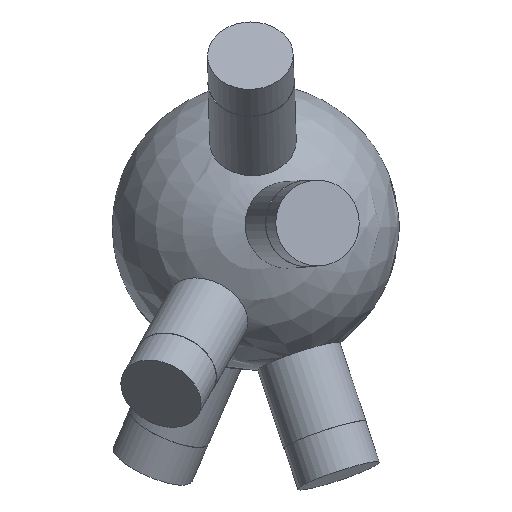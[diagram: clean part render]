
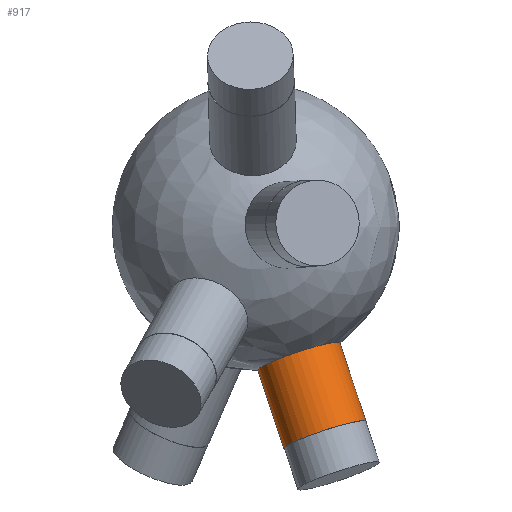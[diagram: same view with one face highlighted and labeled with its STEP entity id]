
A CAD part, top view. The second image highlights one B-rep face of the part: STEP entity #917.
In plain terms, the highlighted cylindrical face has radius 6 mm (diameter 12 mm), a full revolution.
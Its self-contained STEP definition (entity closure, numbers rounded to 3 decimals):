
#33 = SPHERICAL_SURFACE('',#34,20.);
#34 = AXIS2_PLACEMENT_3D('',#35,#36,#37);
#35 = CARTESIAN_POINT('',(0.,0.,0.));
#36 = DIRECTION('',(0.,0.,1.));
#37 = DIRECTION('',(1.,0.,-0.));
#474 = EDGE_CURVE('',#475,#475,#477,.T.);
#475 = VERTEX_POINT('',#476);
#476 = CARTESIAN_POINT('',(0.314,-19.898,1.993
    ));
#477 = SURFACE_CURVE('',#478,(#483,#545),.PCURVE_S1.);
#478 = CIRCLE('',#479,6.);
#479 = AXIS2_PLACEMENT_3D('',#480,#481,#482);
#480 = CARTESIAN_POINT('',(6.005,-17.999,1.993
    ));
#481 = DIRECTION('',(0.315,-0.943,0.104));
#482 = DIRECTION('',(0.949,0.317,0.));
#483 = PCURVE('',#33,#484);
#484 = DEFINITIONAL_REPRESENTATION('',(#485),#544);
#485 = B_SPLINE_CURVE_WITH_KNOTS('',8,(#486,#487,#488,#489,#490,#491,
    #492,#493,#494,#495,#496,#497,#498,#499,#500,#501,#502,#503,#504,
    #505,#506,#507,#508,#509,#510,#511,#512,#513,#514,#515,#516,#517,
    #518,#519,#520,#521,#522,#523,#524,#525,#526,#527,#528,#529,#530,
    #531,#532,#533,#534,#535,#536,#537,#538,#539,#540,#541,#542,#543),
  .UNSPECIFIED.,.F.,.F.,(9,7,7,7,7,7,7,7,9),(3.142,
    3.927,4.614,5.216,6.268,
    7.057,7.649,8.537,9.425),
  .UNSPECIFIED.);
#486 = CARTESIAN_POINT('',(4.728,0.1));
#487 = CARTESIAN_POINT('',(4.729,0.07));
#488 = CARTESIAN_POINT('',(4.733,0.041));
#489 = CARTESIAN_POINT('',(4.74,0.012));
#490 = CARTESIAN_POINT('',(4.751,-0.016));
#491 = CARTESIAN_POINT('',(4.764,-0.042));
#492 = CARTESIAN_POINT('',(4.78,-0.068));
#493 = CARTESIAN_POINT('',(4.798,-0.091));
#494 = CARTESIAN_POINT('',(4.838,-0.13));
#495 = CARTESIAN_POINT('',(4.858,-0.146));
#496 = CARTESIAN_POINT('',(4.88,-0.161));
#497 = CARTESIAN_POINT('',(4.903,-0.173));
#498 = CARTESIAN_POINT('',(4.927,-0.183));
#499 = CARTESIAN_POINT('',(4.952,-0.191));
#500 = CARTESIAN_POINT('',(4.978,-0.196));
#501 = CARTESIAN_POINT('',(5.027,-0.201));
#502 = CARTESIAN_POINT('',(5.05,-0.201));
#503 = CARTESIAN_POINT('',(5.074,-0.199));
#504 = CARTESIAN_POINT('',(5.096,-0.196));
#505 = CARTESIAN_POINT('',(5.119,-0.19));
#506 = CARTESIAN_POINT('',(5.141,-0.183));
#507 = CARTESIAN_POINT('',(5.162,-0.173));
#508 = CARTESIAN_POINT('',(5.216,-0.143));
#509 = CARTESIAN_POINT('',(5.248,-0.119));
#510 = CARTESIAN_POINT('',(5.276,-0.09));
#511 = CARTESIAN_POINT('',(5.3,-0.057));
#512 = CARTESIAN_POINT('',(5.318,-0.021));
#513 = CARTESIAN_POINT('',(5.331,0.017));
#514 = CARTESIAN_POINT('',(5.339,0.056));
#515 = CARTESIAN_POINT('',(5.342,0.125));
#516 = CARTESIAN_POINT('',(5.34,0.155));
#517 = CARTESIAN_POINT('',(5.335,0.184));
#518 = CARTESIAN_POINT('',(5.327,0.213));
#519 = CARTESIAN_POINT('',(5.315,0.241));
#520 = CARTESIAN_POINT('',(5.3,0.267));
#521 = CARTESIAN_POINT('',(5.283,0.291));
#522 = CARTESIAN_POINT('',(5.246,0.33));
#523 = CARTESIAN_POINT('',(5.229,0.345));
#524 = CARTESIAN_POINT('',(5.211,0.359));
#525 = CARTESIAN_POINT('',(5.191,0.371));
#526 = CARTESIAN_POINT('',(5.17,0.382));
#527 = CARTESIAN_POINT('',(5.147,0.391));
#528 = CARTESIAN_POINT('',(5.124,0.398));
#529 = CARTESIAN_POINT('',(5.066,0.41));
#530 = CARTESIAN_POINT('',(5.029,0.413));
#531 = CARTESIAN_POINT('',(4.992,0.411));
#532 = CARTESIAN_POINT('',(4.956,0.405));
#533 = CARTESIAN_POINT('',(4.921,0.394));
#534 = CARTESIAN_POINT('',(4.888,0.379));
#535 = CARTESIAN_POINT('',(4.859,0.36));
#536 = CARTESIAN_POINT('',(4.806,0.315));
#537 = CARTESIAN_POINT('',(4.783,0.29));
#538 = CARTESIAN_POINT('',(4.764,0.262));
#539 = CARTESIAN_POINT('',(4.748,0.231));
#540 = CARTESIAN_POINT('',(4.737,0.199));
#541 = CARTESIAN_POINT('',(4.73,0.167));
#542 = CARTESIAN_POINT('',(4.727,0.133));
#543 = CARTESIAN_POINT('',(4.728,0.1));
#544 = ( GEOMETRIC_REPRESENTATION_CONTEXT(2) 
PARAMETRIC_REPRESENTATION_CONTEXT() REPRESENTATION_CONTEXT('2D SPACE',''
  ) );
#545 = PCURVE('',#546,#551);
#546 = CYLINDRICAL_SURFACE('',#547,6.);
#547 = AXIS2_PLACEMENT_3D('',#548,#549,#550);
#548 = CARTESIAN_POINT('',(0.,0.,0.));
#549 = DIRECTION('',(0.315,-0.943,0.104));
#550 = DIRECTION('',(-0.949,-0.317,0.
    ));
#551 = DEFINITIONAL_REPRESENTATION('',(#552),#556);
#552 = LINE('',#553,#554);
#553 = CARTESIAN_POINT('',(-3.142,19.079));
#554 = VECTOR('',#555,1.);
#555 = DIRECTION('',(1.,0.));
#556 = ( GEOMETRIC_REPRESENTATION_CONTEXT(2) 
PARAMETRIC_REPRESENTATION_CONTEXT() REPRESENTATION_CONTEXT('2D SPACE',''
  ) );
#917 = ADVANCED_FACE('',(#918),#546,.T.);
#918 = FACE_BOUND('',#919,.T.);
#919 = EDGE_LOOP('',(#920,#943,#970,#971));
#920 = ORIENTED_EDGE('',*,*,#921,.T.);
#921 = EDGE_CURVE('',#475,#922,#924,.T.);
#922 = VERTEX_POINT('',#923);
#923 = CARTESIAN_POINT('',(3.946,-30.784,3.199
    ));
#924 = SEAM_CURVE('',#925,(#929,#936),.PCURVE_S1.);
#925 = LINE('',#926,#927);
#926 = CARTESIAN_POINT('',(-5.692,-1.899,
    0.));
#927 = VECTOR('',#928,1.);
#928 = DIRECTION('',(0.315,-0.943,0.104));
#929 = PCURVE('',#546,#930);
#930 = DEFINITIONAL_REPRESENTATION('',(#931),#935);
#931 = LINE('',#932,#933);
#932 = CARTESIAN_POINT('',(6.283,-0.));
#933 = VECTOR('',#934,1.);
#934 = DIRECTION('',(0.,1.));
#935 = ( GEOMETRIC_REPRESENTATION_CONTEXT(2) 
PARAMETRIC_REPRESENTATION_CONTEXT() REPRESENTATION_CONTEXT('2D SPACE',''
  ) );
#936 = PCURVE('',#546,#937);
#937 = DEFINITIONAL_REPRESENTATION('',(#938),#942);
#938 = LINE('',#939,#940);
#939 = CARTESIAN_POINT('',(0.,-0.));
#940 = VECTOR('',#941,1.);
#941 = DIRECTION('',(0.,1.));
#942 = ( GEOMETRIC_REPRESENTATION_CONTEXT(2) 
PARAMETRIC_REPRESENTATION_CONTEXT() REPRESENTATION_CONTEXT('2D SPACE',''
  ) );
#943 = ORIENTED_EDGE('',*,*,#944,.F.);
#944 = EDGE_CURVE('',#922,#922,#945,.T.);
#945 = SURFACE_CURVE('',#946,(#951,#958),.PCURVE_S1.);
#946 = CIRCLE('',#947,6.);
#947 = AXIS2_PLACEMENT_3D('',#948,#949,#950);
#948 = CARTESIAN_POINT('',(9.638,-28.885,3.199
    ));
#949 = DIRECTION('',(0.315,-0.943,0.104));
#950 = DIRECTION('',(-0.949,-0.317,0.)
  );
#951 = PCURVE('',#546,#952);
#952 = DEFINITIONAL_REPRESENTATION('',(#953),#957);
#953 = LINE('',#954,#955);
#954 = CARTESIAN_POINT('',(0.,30.618));
#955 = VECTOR('',#956,1.);
#956 = DIRECTION('',(1.,0.));
#957 = ( GEOMETRIC_REPRESENTATION_CONTEXT(2) 
PARAMETRIC_REPRESENTATION_CONTEXT() REPRESENTATION_CONTEXT('2D SPACE',''
  ) );
#958 = PCURVE('',#959,#964);
#959 = PLANE('',#960);
#960 = AXIS2_PLACEMENT_3D('',#961,#962,#963);
#961 = CARTESIAN_POINT('',(9.638,-28.885,3.199
    ));
#962 = DIRECTION('',(0.315,-0.943,0.104));
#963 = DIRECTION('',(-0.949,-0.317,0.
    ));
#964 = DEFINITIONAL_REPRESENTATION('',(#965),#969);
#965 = CIRCLE('',#966,6.);
#966 = AXIS2_PLACEMENT_2D('',#967,#968);
#967 = CARTESIAN_POINT('',(0.,0.));
#968 = DIRECTION('',(1.,0.));
#969 = ( GEOMETRIC_REPRESENTATION_CONTEXT(2) 
PARAMETRIC_REPRESENTATION_CONTEXT() REPRESENTATION_CONTEXT('2D SPACE',''
  ) );
#970 = ORIENTED_EDGE('',*,*,#921,.F.);
#971 = ORIENTED_EDGE('',*,*,#474,.T.);
